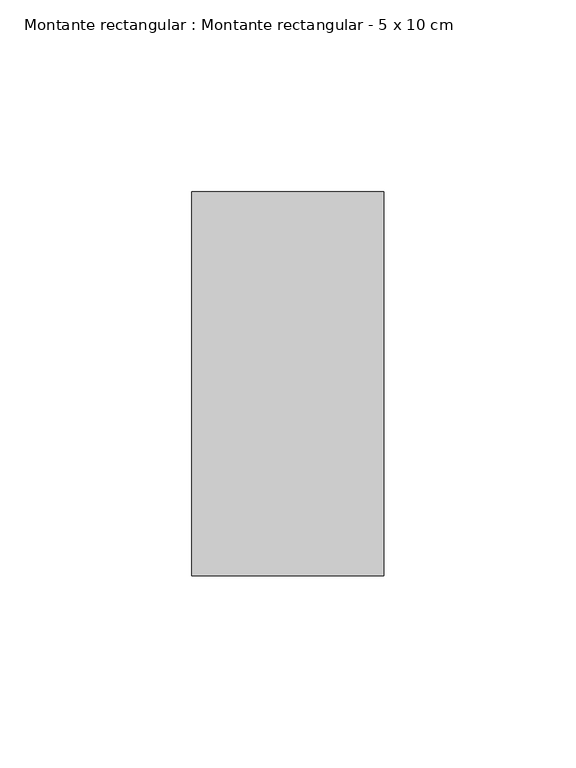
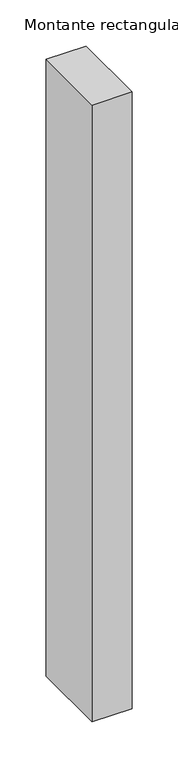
"""IFC4 building model written with IfcOpenShell, lengths in millimetres: member geometry, Montante rectangular : Montante rectangular - 5 x 10 cm."""

from ifc_helpers import new_model, si_unit, frame, origin, place, context, project, spatial, polyline, outline, extrude, source, transform, mapped, element, save


def montante_rectangular_montante_rectangular_5_x_10_cm_2a6485e1(model_context):
    return source(origin(), model_context, "Body", "SweptSolid", [
        extrude(outline(polyline([(25.0, -50.0), (-25.0, -50.0), (-25.0, 50.0), (25.0, 50.0), (25.0, -50.0)])), frame((0.0, 0.0, -816.6666667), z_axis=(0.0, 0.0, 1.0), x_axis=(1.0, 0.0, 0.0)), (0.0, 0.0, 1.0), 816.6666667),
    ])


if __name__ == "__main__":
    model = new_model("IFC4")
    model_context = context("Model", 3, world=origin())
    ifc_project = project(units=[si_unit("LENGTHUNIT", "METRE", prefix="MILLI")], contexts=[model_context])
    site = spatial("IfcSite", under=ifc_project)
    building = spatial("IfcBuilding", under=site)
    placement = place(None, origin())
    montante_rectangular_montante_rectangular_5_x_10_cm_shape = montante_rectangular_montante_rectangular_5_x_10_cm_2a6485e1(model_context)
    element("IfcMember", 1, ObjectType="Montante rectangular : Montante rectangular - 5 x 10 cm", at=placement, inside=building, context=model_context, shape_type="MappedRepresentation", body=[
        mapped(montante_rectangular_montante_rectangular_5_x_10_cm_shape, transform((0.0, 0.0, 0.0), x_axis=(1.0, 0.0, 0.0), y_axis=(0.0, 1.0, 0.0), z_axis=(0.0, 0.0, 1.0))),
    ])
    save(model, "model.ifc")
